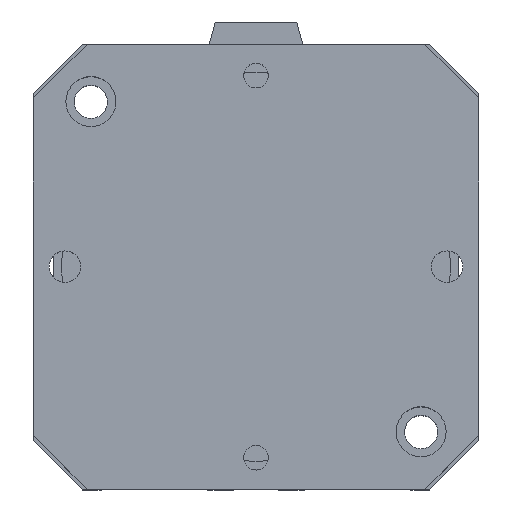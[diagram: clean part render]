
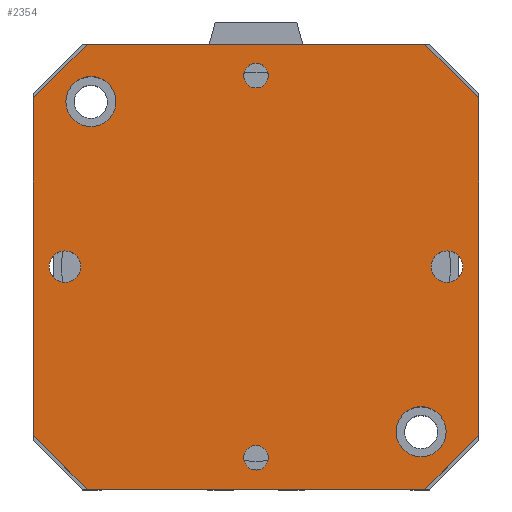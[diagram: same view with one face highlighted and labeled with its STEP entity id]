
A CAD part, top view. The second image highlights one B-rep face of the part: STEP entity #2354.
In plain terms, the highlighted planar face has unit normal (0, 0, 1).
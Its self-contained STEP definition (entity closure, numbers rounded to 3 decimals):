
#221=LINE('',#3869,#429);
#223=LINE('',#3873,#431);
#225=LINE('',#3877,#433);
#227=LINE('',#3881,#435);
#229=LINE('',#3885,#437);
#231=LINE('',#3889,#439);
#233=LINE('',#3893,#441);
#235=LINE('',#3896,#443);
#429=VECTOR('',#3196,91.);
#431=VECTOR('',#3200,20.506);
#433=VECTOR('',#3204,91.);
#435=VECTOR('',#3208,20.506);
#437=VECTOR('',#3212,91.);
#439=VECTOR('',#3216,20.506);
#441=VECTOR('',#3220,91.);
#443=VECTOR('',#3224,20.506);
#537=PLANE('',#2580);
#626=FACE_BOUND('',#956,.T.);
#627=FACE_BOUND('',#957,.T.);
#628=FACE_BOUND('',#958,.T.);
#629=FACE_BOUND('',#959,.T.);
#630=FACE_BOUND('',#960,.T.);
#631=FACE_BOUND('',#961,.T.);
#632=FACE_BOUND('',#962,.T.);
#956=EDGE_LOOP('',(#2134));
#957=EDGE_LOOP('',(#2135));
#958=EDGE_LOOP('',(#2136));
#959=EDGE_LOOP('',(#2137));
#960=EDGE_LOOP('',(#2138));
#961=EDGE_LOOP('',(#2139));
#962=EDGE_LOOP('',(#2140,#2141,#2142,#2143,#2144,#2145,#2146,#2147));
#1035=CIRCLE('',#2536,3.324);
#1037=CIRCLE('',#2539,3.324);
#1042=CIRCLE('',#2547,4.25);
#1046=CIRCLE('',#2554,4.25);
#1055=CIRCLE('',#2569,6.75);
#1056=CIRCLE('',#2571,6.75);
#1235=VERTEX_POINT('',#3787);
#1237=VERTEX_POINT('',#3792);
#1242=VERTEX_POINT('',#3805);
#1246=VERTEX_POINT('',#3816);
#1265=VERTEX_POINT('',#3860);
#1266=VERTEX_POINT('',#3863);
#1267=VERTEX_POINT('',#3866);
#1268=VERTEX_POINT('',#3868);
#1269=VERTEX_POINT('',#3872);
#1270=VERTEX_POINT('',#3876);
#1271=VERTEX_POINT('',#3880);
#1272=VERTEX_POINT('',#3884);
#1273=VERTEX_POINT('',#3888);
#1274=VERTEX_POINT('',#3892);
#1521=EDGE_CURVE('',#1235,#1235,#1035,.T.);
#1523=EDGE_CURVE('',#1237,#1237,#1037,.T.);
#1528=EDGE_CURVE('',#1242,#1242,#1042,.T.);
#1532=EDGE_CURVE('',#1246,#1246,#1046,.T.);
#1551=EDGE_CURVE('',#1265,#1265,#1055,.T.);
#1552=EDGE_CURVE('',#1266,#1266,#1056,.T.);
#1554=EDGE_CURVE('',#1268,#1267,#221,.T.);
#1556=EDGE_CURVE('',#1269,#1268,#223,.T.);
#1558=EDGE_CURVE('',#1270,#1269,#225,.T.);
#1560=EDGE_CURVE('',#1271,#1270,#227,.T.);
#1562=EDGE_CURVE('',#1272,#1271,#229,.T.);
#1564=EDGE_CURVE('',#1273,#1272,#231,.T.);
#1566=EDGE_CURVE('',#1274,#1273,#233,.T.);
#1568=EDGE_CURVE('',#1267,#1274,#235,.T.);
#2134=ORIENTED_EDGE('',*,*,#1521,.T.);
#2135=ORIENTED_EDGE('',*,*,#1523,.T.);
#2136=ORIENTED_EDGE('',*,*,#1528,.T.);
#2137=ORIENTED_EDGE('',*,*,#1532,.T.);
#2138=ORIENTED_EDGE('',*,*,#1551,.T.);
#2139=ORIENTED_EDGE('',*,*,#1552,.T.);
#2140=ORIENTED_EDGE('',*,*,#1568,.T.);
#2141=ORIENTED_EDGE('',*,*,#1566,.T.);
#2142=ORIENTED_EDGE('',*,*,#1564,.T.);
#2143=ORIENTED_EDGE('',*,*,#1562,.T.);
#2144=ORIENTED_EDGE('',*,*,#1560,.T.);
#2145=ORIENTED_EDGE('',*,*,#1558,.T.);
#2146=ORIENTED_EDGE('',*,*,#1556,.T.);
#2147=ORIENTED_EDGE('',*,*,#1554,.T.);
#2354=ADVANCED_FACE('',(#626,#627,#628,#629,#630,#631,#632),#537,.T.);
#2536=AXIS2_PLACEMENT_3D('',#3788,#3111,#3112);
#2539=AXIS2_PLACEMENT_3D('',#3793,#3117,#3118);
#2547=AXIS2_PLACEMENT_3D('',#3806,#3133,#3134);
#2554=AXIS2_PLACEMENT_3D('',#3817,#3147,#3148);
#2569=AXIS2_PLACEMENT_3D('',#3861,#3187,#3188);
#2571=AXIS2_PLACEMENT_3D('',#3864,#3191,#3192);
#2580=AXIS2_PLACEMENT_3D('',#3897,#3225,#3226);
#3111=DIRECTION('center_axis',(0.,0.,-1.));
#3112=DIRECTION('ref_axis',(1.,0.,0.));
#3117=DIRECTION('center_axis',(0.,0.,-1.));
#3118=DIRECTION('ref_axis',(1.,0.,0.));
#3133=DIRECTION('center_axis',(0.,0.,-1.));
#3134=DIRECTION('ref_axis',(1.,0.,0.));
#3147=DIRECTION('center_axis',(0.,0.,-1.));
#3148=DIRECTION('ref_axis',(1.,0.,0.));
#3187=DIRECTION('center_axis',(0.,0.,-1.));
#3188=DIRECTION('ref_axis',(-1.,0.,0.));
#3191=DIRECTION('center_axis',(0.,0.,-1.));
#3192=DIRECTION('ref_axis',(-1.,0.,0.));
#3196=DIRECTION('',(0.,1.,0.));
#3200=DIRECTION('',(0.707,0.707,0.));
#3204=DIRECTION('',(1.,0.,0.));
#3208=DIRECTION('',(0.707,-0.707,0.));
#3212=DIRECTION('',(0.,-1.,0.));
#3216=DIRECTION('',(-0.707,-0.707,0.));
#3220=DIRECTION('',(-1.,0.,0.));
#3224=DIRECTION('',(-0.707,0.707,0.));
#3225=DIRECTION('center_axis',(0.,0.,1.));
#3226=DIRECTION('ref_axis',(1.,0.,0.));
#3787=CARTESIAN_POINT('',(-54.824,0.,85.75));
#3788=CARTESIAN_POINT('Origin',(-51.5,0.,85.75));
#3792=CARTESIAN_POINT('',(48.177,0.,85.75));
#3793=CARTESIAN_POINT('Origin',(51.5,0.,85.75));
#3805=CARTESIAN_POINT('',(-4.25,51.5,85.75));
#3806=CARTESIAN_POINT('Origin',(0.,51.5,85.75));
#3816=CARTESIAN_POINT('',(-4.25,-51.5,85.75));
#3817=CARTESIAN_POINT('Origin',(0.,-51.5,85.75));
#3860=CARTESIAN_POINT('',(-37.75,-44.5,85.75));
#3861=CARTESIAN_POINT('Origin',(-44.5,-44.5,85.75));
#3863=CARTESIAN_POINT('',(51.25,44.5,85.75));
#3864=CARTESIAN_POINT('Origin',(44.5,44.5,85.75));
#3866=CARTESIAN_POINT('',(60.,45.5,85.75));
#3868=CARTESIAN_POINT('',(60.,-45.5,85.75));
#3869=CARTESIAN_POINT('',(60.,45.5,85.75));
#3872=CARTESIAN_POINT('',(45.5,-60.,85.75));
#3873=CARTESIAN_POINT('',(60.,-45.5,85.75));
#3876=CARTESIAN_POINT('',(-45.5,-60.,85.75));
#3877=CARTESIAN_POINT('',(45.5,-60.,85.75));
#3880=CARTESIAN_POINT('',(-60.,-45.5,85.75));
#3881=CARTESIAN_POINT('',(-45.5,-60.,85.75));
#3884=CARTESIAN_POINT('',(-60.,45.5,85.75));
#3885=CARTESIAN_POINT('',(-60.,-45.5,85.75));
#3888=CARTESIAN_POINT('',(-45.5,60.,85.75));
#3889=CARTESIAN_POINT('',(-60.,45.5,85.75));
#3892=CARTESIAN_POINT('',(45.5,60.,85.75));
#3893=CARTESIAN_POINT('',(-45.5,60.,85.75));
#3896=CARTESIAN_POINT('',(45.5,60.,85.75));
#3897=CARTESIAN_POINT('Origin',(0.,0.,85.75));
